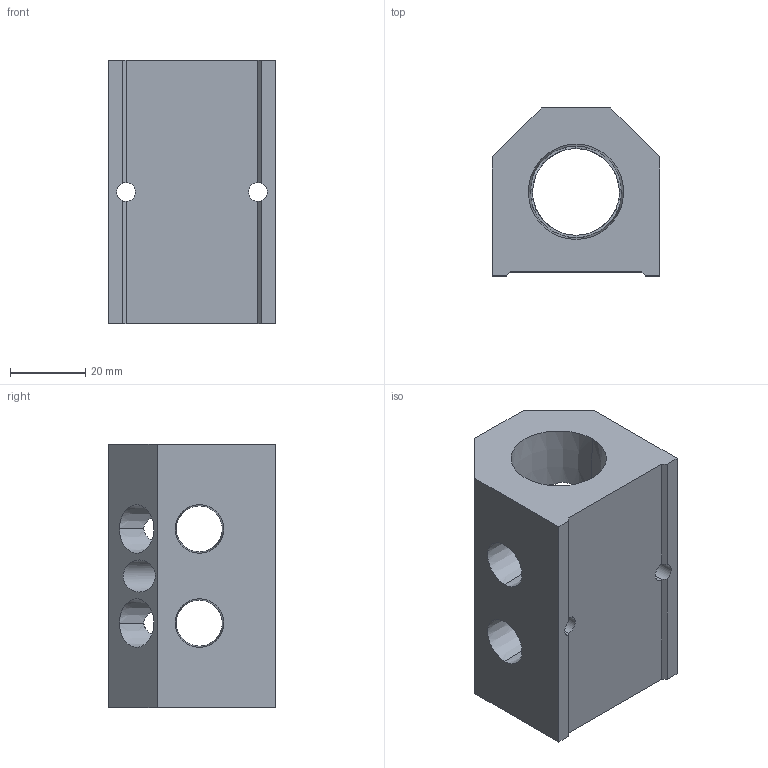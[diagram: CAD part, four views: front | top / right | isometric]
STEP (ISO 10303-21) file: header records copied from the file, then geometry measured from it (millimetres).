
FILE_DESCRIPTION (( 'STEP AP214' ), '1' );
FILE_NAME ('ALM2ABCDE-N4N12-70B.step', '2022-02-06T14:10:18', ( '' ), ( '' ), 'SwSTEP 2.0', 'SolidWorks 2020', '' );
FILE_SCHEMA (( 'AUTOMOTIVE_DESIGN' ));
Length unit declared in the file: millimetre
Products named in the file (1): ALM2ABCDE-N4N12-70B
Bounding box: 44.5 x 44.5 x 70 mm (x, y, z)
Volume: 77319.7 mm3; surface area: 22250.3 mm2
Topology: 1 solids, 1 shells, 356 faces, 986 edges, 656 vertices
Faces by surface type: plane 234, bspline 60, cone 34, cylinder 28
Entity records: 16340 total; most frequent: CARTESIAN_POINT 7503, ORIENTED_EDGE 1972, DIRECTION 1396, EDGE_CURVE 986, VERTEX_POINT 656, LINE 650, VECTOR 650, EDGE_LOOP 406
